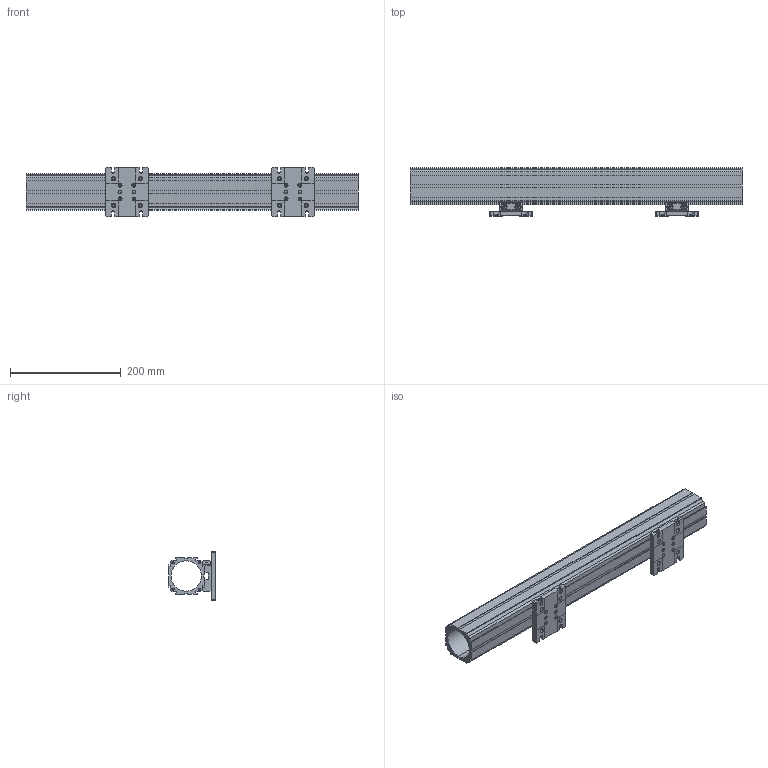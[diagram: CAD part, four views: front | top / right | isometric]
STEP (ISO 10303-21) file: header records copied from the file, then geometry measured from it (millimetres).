
FILE_DESCRIPTION((''),'2;1');
FILE_NAME('OPH-B600_ASM','2021-06-24T',('Administrator'),(''),'CREO PARAMETRIC BY PTC INC, 2015290','CREO PARAMETRIC BY PTC INC, 2015290','');
FILE_SCHEMA(('CONFIG_CONTROL_DESIGN'));
Products named in the file (8): M4X12_HP; WASHER_M4; OOP-MA_A1; OOP-MA_A2; OOP-MA_ASM; OPS-ML; OPH_A600; OPH-B600_ASM
Assembly tree (11 placements, depth 3):
  OPH-B600_ASM
    OOP-MA_ASM  x2
      M4X12_HP
      WASHER_M4
      OOP-MA_A1
      OOP-MA_A2
    OPS-ML  x2
    OPH_A600
Bounding box: 600 x 86.73 x 89.28 mm (x, y, z)
Volume: 1076437.2 mm3; surface area: 342350.7 mm2
Topology: 15 solids, 15 shells, 1262 faces, 3620 edges, 2312 vertices
Faces by surface type: cylinder 476, plane 322, bspline 312, cone 132, extrusion 12, sphere 8
Entity records: 52683 total; most frequent: CARTESIAN_POINT 34572, ORIENTED_EDGE 4340, DIRECTION 2766, EDGE_CURVE 2170, VERTEX_POINT 1403, VECTOR 1052, LINE 1049, AXIS2_PLACEMENT_3D 857
